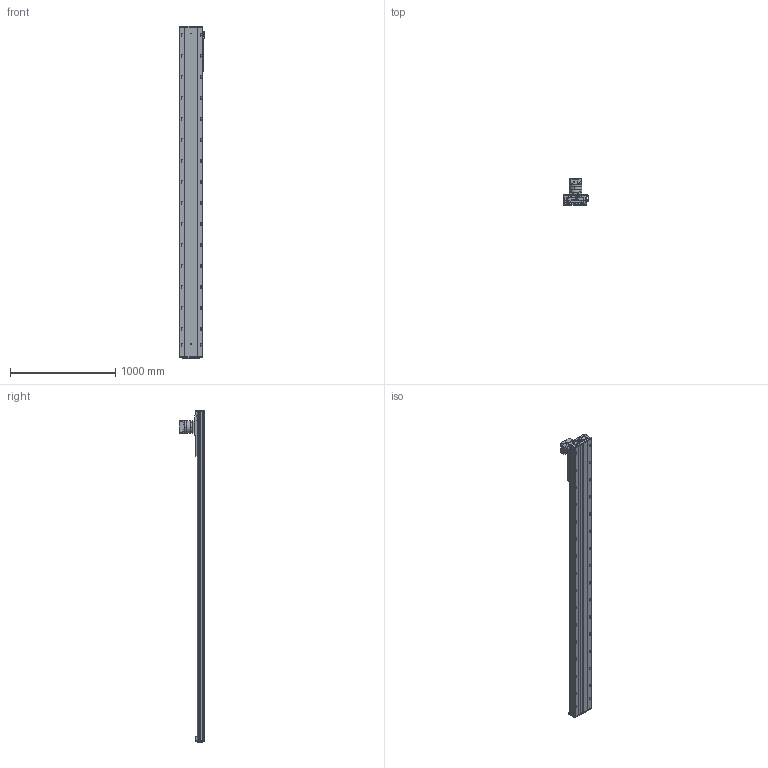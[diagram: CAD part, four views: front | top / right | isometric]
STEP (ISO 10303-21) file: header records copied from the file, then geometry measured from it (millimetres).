
FILE_DESCRIPTION (( 'STEP AP203' ), '1' );
FILE_NAME ('RY220-C-300-UK.SLDASM_2650.step', '2022-08-01T06:00:21', ( '' ), ( '' ), 'SwSTEP 2.0', 'SolidWorks 2016', '' );
FILE_SCHEMA (( 'CONFIG_CONTROL_DESIGN' ));
Length unit declared in the file: millimetre
Products named in the file (10): RY220喘沭綴裔啣; 滅袉蝶輸ㄗG412隅秶ㄘ; RY220喘沭俋离覜茼え; RY220喘沭賑輸; RY140直线电机感应器674光电安装座; RY220-齿条模组电机安装板; RY220-C-300-UK.SLDASM_2650; PF115L1-S2-22-58-110-145-M8; RY220菁釱MK-300_2650; 覜茼ん674
Assembly tree (12 placements, depth 2):
  RY220-C-300-UK.SLDASM_2650
    RY220菁釱MK-300_2650
    RY220喘沭賑輸
    RY220-齿条模组电机安装板
    PF115L1-S2-22-58-110-145-M8
    RY220喘沭綴裔啣  x2
    滅袉蝶輸ㄗG412隅秶ㄘ  x2
    RY140直线电机感应器674光电安装座
    覜茼ん674  x2
    RY220喘沭俋离覜茼え
Bounding box: 247 x 244.5 x 3159 mm (x, y, z)
Volume: 21275093.9 mm3; surface area: 4372287.6 mm2
Topology: 18 solids, 26 shells, 2350 faces, 6333 edges, 3955 vertices
Faces by surface type: cylinder 1143, plane 751, cone 294, bspline 162
Entity records: 74757 total; most frequent: CARTESIAN_POINT 20289, DIRECTION 11267, ORIENTED_EDGE 10978, EDGE_CURVE 5489, AXIS2_PLACEMENT_3D 4321, VERTEX_POINT 3581, EDGE_LOOP 2754, VECTOR 2625
